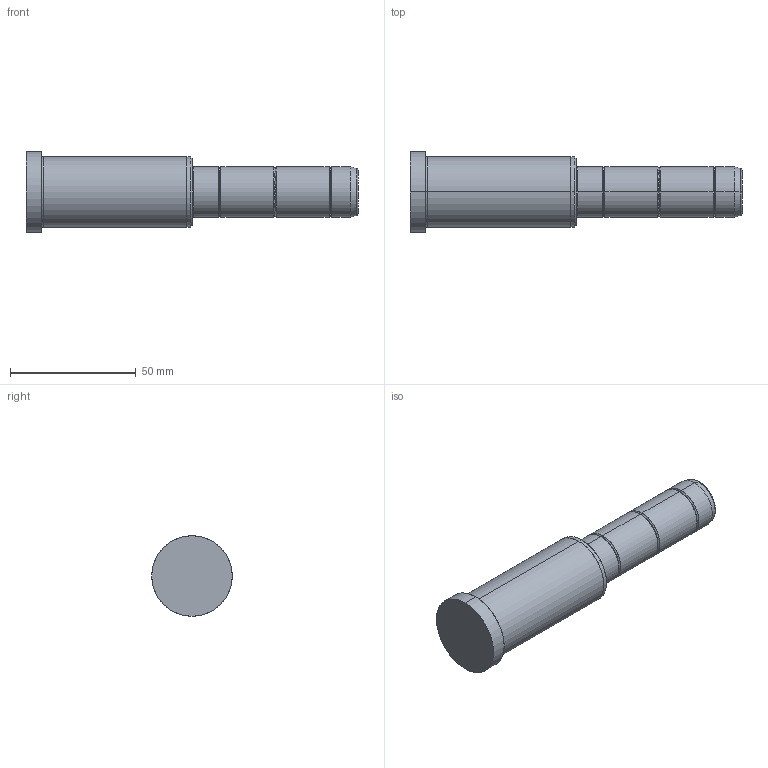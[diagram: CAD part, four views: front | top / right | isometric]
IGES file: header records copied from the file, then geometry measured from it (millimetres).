
Start section: SolidWorks IGES file using analytic representation for surfaces
Global section: file name: C:\Documents and Settings\kalite-mail\Desktop\IGS\D02\20\D02 - 20x66x66.IGS; native system: SolidWorks 2008; preprocessor: SolidWorks 2008; author: kalite-mail; date: 080616.163451; units: millimetre
Bounding box: 132 x 32 x 32 mm (x, y, z)
Surface area: 11637.5 mm2 (no closed solid volume)
Topology: 0 solids, 0 shells, 42 faces, 688 edges, 688 vertices
Faces by surface type: bspline 22, revolution 20
